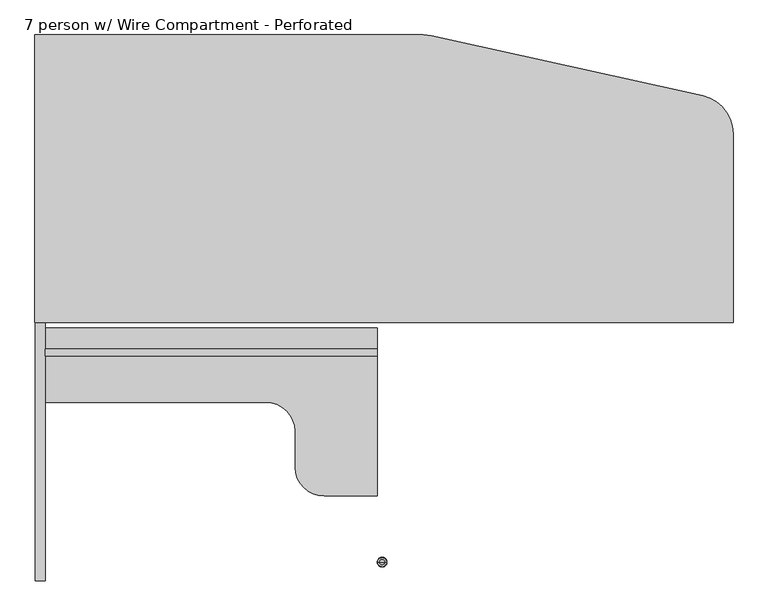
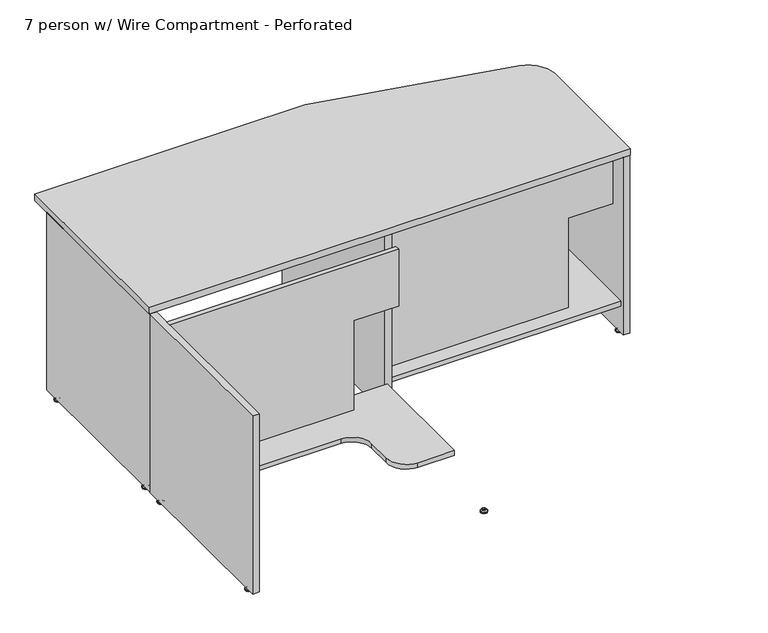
"""IFC4 building model written with IfcOpenShell, lengths in millimetres: furniture geometry, Nova Solutions - Collaboration Table - Boat_6-8 person : 7 person w/ Wire Compartment - Perforated."""

from ifc_helpers import new_model, si_unit, point, frame, frame_2d, origin, place, context, project, spatial, polyline, circle_curve, ellipse_curve, trimmed, segment, composite_curve, outline, extrude, source, transform, mapped, element, save
from ifc_brep_helpers import plane_surface, cylinder_surface, revolved_surface, advanced_brep


def furniture_7_person_w_wire_compartment_perforated_33649b7c(model_context):
    return source(origin(), model_context, "Body", "SolidModel", [
        advanced_brep(
        [(-906.7036506, 631.3859375, 11.1125), (-893.3483494, 631.3859375, 11.1125), (-900.026, 631.3859375, 11.1125), (-906.7036506, 631.3859375, 9.525), (-893.3483494, 631.3859375, 9.525), (-911.9115135, 631.3859375, 4.7748687), (-888.1404865, 631.3859375, 4.7748687), (-912.7726506, 631.3859375, 3.989419), (-887.2793494, 631.3859375, 3.989419), (-912.7726506, 631.3859375, 3.175), (-887.2793494, 631.3859375, 3.175), (-911.9219119, 631.3859375, 0.0), (-888.1300881, 631.3859375, 0.0), (-900.026, 631.3859375, 0.0)],
        [
            (0, 1, circle_curve(frame((-900.026, 631.3859375, 11.1125), z_axis=(0.0, 0.0, 1.0), x_axis=(1.0, 0.0, 0.0)), 6.6776506)),
            (1, 2),
            (2, 0),
            (1, 0, circle_curve(frame((-900.026, 631.3859375, 11.1125), z_axis=(0.0, 0.0, 1.0), x_axis=(1.0, 0.0, 0.0)), 6.6776506)),
            (3, 4, circle_curve(frame((-900.026, 631.3859375, 9.525), z_axis=(0.0, 0.0, 1.0), x_axis=(1.0, 0.0, 0.0)), 6.6776506)),
            (4, 1),
            (0, 3),
            (4, 3, circle_curve(frame((-900.026, 631.3859375, 9.525), z_axis=(0.0, 0.0, 1.0), x_axis=(1.0, 0.0, 0.0)), 6.6776506)),
            (5, 6, circle_curve(frame((-900.026, 631.3859375, 4.7748687), z_axis=(0.0, 0.0, 1.0), x_axis=(1.0, 0.0, 0.0)), 11.8855135)),
            (6, 4, circle_curve(frame((-887.0939373, 631.3859375, 11.1521822), z_axis=(0.0, 1.0, 0.0), x_axis=(-1.0, 0.0, 0.0)), 6.462615)),
            (3, 5, circle_curve(frame((-912.9580627, 631.3859375, 11.1521822), z_axis=(0.0, 1.0, 0.0), x_axis=(1.0, 0.0, 0.0)), 6.462615)),
            (6, 5, circle_curve(frame((-900.026, 631.3859375, 4.7748687), z_axis=(0.0, 0.0, 1.0), x_axis=(1.0, 0.0, 0.0)), 11.8855135)),
            (7, 8, circle_curve(frame((-900.026, 631.3859375, 3.989419), z_axis=(0.0, 0.0, 1.0), x_axis=(1.0, 0.0, 0.0)), 12.7466506)),
            (8, 6, circle_curve(frame((-888.3135368, 631.3859375, 3.7203591), z_axis=(0.0, -1.0, 0.0), x_axis=(-1.0, 0.0, 0.0)), 1.0686145)),
            (5, 7, circle_curve(frame((-911.7384632, 631.3859375, 3.7203591), z_axis=(0.0, -1.0, 0.0), x_axis=(1.0, 0.0, 0.0)), 1.0686145)),
            (8, 7, circle_curve(frame((-900.026, 631.3859375, 3.989419), z_axis=(0.0, 0.0, 1.0), x_axis=(1.0, 0.0, 0.0)), 12.7466506)),
            (9, 10, circle_curve(frame((-900.026, 631.3859375, 3.175), z_axis=(0.0, 0.0, 1.0), x_axis=(1.0, 0.0, 0.0)), 12.7466506)),
            (10, 8),
            (7, 9),
            (10, 9, circle_curve(frame((-900.026, 631.3859375, 3.175), z_axis=(0.0, 0.0, 1.0), x_axis=(1.0, 0.0, 0.0)), 12.7466506)),
            (11, 12, circle_curve(frame((-900.026, 631.3859375, 0.0), z_axis=(0.0, 0.0, 1.0), x_axis=(1.0, 0.0, 0.0)), 11.8959119)),
            (12, 10),
            (9, 11),
            (12, 11, circle_curve(frame((-900.026, 631.3859375, 0.0), z_axis=(0.0, 0.0, 1.0), x_axis=(1.0, 0.0, 0.0)), 11.8959119)),
            (13, 12),
            (11, 13),
        ],
        [
            plane_surface(frame((-900.026, 631.3859375, 11.1125), z_axis=(0.0, 0.0, 1.0), x_axis=(1.0, 0.0, 0.0))),
            cylinder_surface(frame((-900.026, 631.3859375, 43.2095994), z_axis=(0.0, 0.0, -1.0), x_axis=(1.0, 0.0, 0.0)), 6.6776506),
            revolved_surface(trimmed(ellipse_curve(frame((-887.0939373, 631.3859375, 11.1521822), z_axis=(0.0, -1.0, 0.0), x_axis=(-1.0, 0.0, 0.0)), 6.462615, 6.462615), [point((-893.3483494, 631.3859375, 9.525))], [point((-888.1404865, 631.3859375, 4.7748687))], True, "CARTESIAN"), (-900.026, 631.3859375, 43.2095994), (0.0, 0.0, -1.0)),
            revolved_surface(trimmed(ellipse_curve(frame((-888.3135368, 631.3859375, 3.7203591), z_axis=(0.0, 1.0, 0.0), x_axis=(-1.0, 0.0, 0.0)), 1.0686145, 1.0686145), [point((-888.1404865, 631.3859375, 4.7748687))], [point((-887.2793494, 631.3859375, 3.989419))], True, "CARTESIAN"), (-900.026, 631.3859375, 43.2095994), (0.0, 0.0, -1.0)),
            cylinder_surface(frame((-900.026, 631.3859375, 43.2095994), z_axis=(0.0, 0.0, -1.0), x_axis=(1.0, 0.0, 0.0)), 12.7466506),
            revolved_surface(polyline([(-887.2793494, 631.3859375, 3.175), (-888.1300881, 631.3859375, 0.0)]), (-900.026, 631.3859375, 43.2095994), (0.0, 0.0, -1.0)),
            plane_surface(frame((-900.026, 631.3859375, 0.0), z_axis=(0.0, 0.0, -1.0), x_axis=(1.0, 0.0, 0.0))),
        ],
        [
            (0, [[1, 2, 3]]),
            (0, [[4, -3, -2]]),
            (1, [[5, 6, -1, 7]]),
            (1, [[8, -7, -4, -6]]),
            (2, [[9, 10, -5, 11]]),
            (2, [[12, -11, -8, -10]]),
            (3, [[13, 14, -9, 15]]),
            (3, [[16, -15, -12, -14]]),
            (4, [[17, 18, -13, 19]]),
            (4, [[20, -19, -16, -18]]),
            (5, [[21, 22, -17, 23]]),
            (5, [[24, -23, -20, -22]]),
            (6, [[25, -21, 26]]),
            (6, [[-26, -24, -25]]),
        ],
    ),
        advanced_brep(
        [(-906.7036506, 50.4140625, 11.1125), (-893.3483494, 50.4140625, 11.1125), (-900.026, 50.4140625, 11.1125), (-906.7036506, 50.4140625, 9.525), (-893.3483494, 50.4140625, 9.525), (-911.9115135, 50.4140625, 4.7748687), (-888.1404865, 50.4140625, 4.7748687), (-912.7726506, 50.4140625, 3.989419), (-887.2793494, 50.4140625, 3.989419), (-912.7726506, 50.4140625, 3.175), (-887.2793494, 50.4140625, 3.175), (-911.9219119, 50.4140625, 0.0), (-888.1300881, 50.4140625, 0.0), (-900.026, 50.4140625, 0.0)],
        [
            (0, 1, circle_curve(frame((-900.026, 50.4140625, 11.1125), z_axis=(0.0, 0.0, 1.0), x_axis=(1.0, 0.0, 0.0)), 6.6776506)),
            (1, 2),
            (2, 0),
            (1, 0, circle_curve(frame((-900.026, 50.4140625, 11.1125), z_axis=(0.0, 0.0, 1.0), x_axis=(1.0, 0.0, 0.0)), 6.6776506)),
            (3, 4, circle_curve(frame((-900.026, 50.4140625, 9.525), z_axis=(0.0, 0.0, 1.0), x_axis=(1.0, 0.0, 0.0)), 6.6776506)),
            (4, 1),
            (0, 3),
            (4, 3, circle_curve(frame((-900.026, 50.4140625, 9.525), z_axis=(0.0, 0.0, 1.0), x_axis=(1.0, 0.0, 0.0)), 6.6776506)),
            (5, 6, circle_curve(frame((-900.026, 50.4140625, 4.7748687), z_axis=(0.0, 0.0, 1.0), x_axis=(1.0, 0.0, 0.0)), 11.8855135)),
            (6, 4, circle_curve(frame((-887.0939373, 50.4140625, 11.1521822), z_axis=(0.0, 1.0, 0.0), x_axis=(-1.0, 0.0, 0.0)), 6.462615)),
            (3, 5, circle_curve(frame((-912.9580627, 50.4140625, 11.1521822), z_axis=(0.0, 1.0, 0.0), x_axis=(1.0, 0.0, 0.0)), 6.462615)),
            (6, 5, circle_curve(frame((-900.026, 50.4140625, 4.7748687), z_axis=(0.0, 0.0, 1.0), x_axis=(1.0, 0.0, 0.0)), 11.8855135)),
            (7, 8, circle_curve(frame((-900.026, 50.4140625, 3.989419), z_axis=(0.0, 0.0, 1.0), x_axis=(1.0, 0.0, 0.0)), 12.7466506)),
            (8, 6, circle_curve(frame((-888.3135368, 50.4140625, 3.7203591), z_axis=(0.0, -1.0, 0.0), x_axis=(-1.0, 0.0, 0.0)), 1.0686145)),
            (5, 7, circle_curve(frame((-911.7384632, 50.4140625, 3.7203591), z_axis=(0.0, -1.0, 0.0), x_axis=(1.0, 0.0, 0.0)), 1.0686145)),
            (8, 7, circle_curve(frame((-900.026, 50.4140625, 3.989419), z_axis=(0.0, 0.0, 1.0), x_axis=(1.0, 0.0, 0.0)), 12.7466506)),
            (9, 10, circle_curve(frame((-900.026, 50.4140625, 3.175), z_axis=(0.0, 0.0, 1.0), x_axis=(1.0, 0.0, 0.0)), 12.7466506)),
            (10, 8),
            (7, 9),
            (10, 9, circle_curve(frame((-900.026, 50.4140625, 3.175), z_axis=(0.0, 0.0, 1.0), x_axis=(1.0, 0.0, 0.0)), 12.7466506)),
            (11, 12, circle_curve(frame((-900.026, 50.4140625, 0.0), z_axis=(0.0, 0.0, 1.0), x_axis=(1.0, 0.0, 0.0)), 11.8959119)),
            (12, 10),
            (9, 11),
            (12, 11, circle_curve(frame((-900.026, 50.4140625, 0.0), z_axis=(0.0, 0.0, 1.0), x_axis=(1.0, 0.0, 0.0)), 11.8959119)),
            (13, 12),
            (11, 13),
        ],
        [
            plane_surface(frame((-900.026, 50.4140625, 11.1125), z_axis=(0.0, 0.0, 1.0), x_axis=(1.0, 0.0, 0.0))),
            cylinder_surface(frame((-900.026, 50.4140625, 43.2095994), z_axis=(0.0, 0.0, -1.0), x_axis=(1.0, 0.0, 0.0)), 6.6776506),
            revolved_surface(trimmed(ellipse_curve(frame((-887.0939373, 50.4140625, 11.1521822), z_axis=(0.0, -1.0, 0.0), x_axis=(-1.0, 0.0, 0.0)), 6.462615, 6.462615), [point((-893.3483494, 50.4140625, 9.525))], [point((-888.1404865, 50.4140625, 4.7748687))], True, "CARTESIAN"), (-900.026, 50.4140625, 43.2095994), (0.0, 0.0, -1.0)),
            revolved_surface(trimmed(ellipse_curve(frame((-888.3135368, 50.4140625, 3.7203591), z_axis=(0.0, 1.0, 0.0), x_axis=(-1.0, 0.0, 0.0)), 1.0686145, 1.0686145), [point((-888.1404865, 50.4140625, 4.7748687))], [point((-887.2793494, 50.4140625, 3.989419))], True, "CARTESIAN"), (-900.026, 50.4140625, 43.2095994), (0.0, 0.0, -1.0)),
            cylinder_surface(frame((-900.026, 50.4140625, 43.2095994), z_axis=(0.0, 0.0, -1.0), x_axis=(1.0, 0.0, 0.0)), 12.7466506),
            revolved_surface(polyline([(-887.2793494, 50.4140625, 3.175), (-888.1300881, 50.4140625, 0.0)]), (-900.026, 50.4140625, 43.2095994), (0.0, 0.0, -1.0)),
            plane_surface(frame((-900.026, 50.4140625, 0.0), z_axis=(0.0, 0.0, -1.0), x_axis=(1.0, 0.0, 0.0))),
        ],
        [
            (0, [[1, 2, 3]]),
            (0, [[4, -3, -2]]),
            (1, [[5, 6, -1, 7]]),
            (1, [[8, -7, -4, -6]]),
            (2, [[9, 10, -5, 11]]),
            (2, [[12, -11, -8, -10]]),
            (3, [[13, 14, -9, 15]]),
            (3, [[16, -15, -12, -14]]),
            (4, [[17, 18, -13, 19]]),
            (4, [[20, -19, -16, -18]]),
            (5, [[21, 22, -17, 23]]),
            (5, [[24, -23, -20, -22]]),
            (6, [[25, -21, 26]]),
            (6, [[-26, -24, -25]]),
        ],
    ),
        extrude(outline(polyline([(-912.876, 1.4), (-912.876, 680.4), (-887.176, 680.4), (-887.176, 1.4), (-912.876, 1.4)])), frame((0.0, 0.0, 15.6), z_axis=(0.0, 0.0, 1.0), x_axis=(1.0, 0.0, 0.0)), (0.0, 0.0, 1.0), 720.7),
        advanced_brep(
        [(6.6776506, 631.3859375, 11.1125), (0.0, 631.3859375, 11.1125), (-6.6776506, 631.3859375, 11.1125), (6.6776506, 631.3859375, 9.525), (-6.6776506, 631.3859375, 9.525), (11.8855135, 631.3859375, 4.7748687), (-11.8855135, 631.3859375, 4.7748687), (12.7466506, 631.3859375, 3.989419), (-12.7466506, 631.3859375, 3.989419), (12.7466506, 631.3859375, 3.175), (-12.7466506, 631.3859375, 3.175), (11.8959119, 631.3859375, 0.0), (-11.8959119, 631.3859375, 0.0), (0.0, 631.3859375, 0.0)],
        [
            (0, 1),
            (1, 2),
            (2, 0, circle_curve(frame((0.0, 631.3859375, 11.1125), z_axis=(0.0, 0.0, 1.0), x_axis=(-1.0, 0.0, 0.0)), 6.6776506)),
            (0, 2, circle_curve(frame((0.0, 631.3859375, 11.1125), z_axis=(0.0, 0.0, 1.0), x_axis=(-1.0, 0.0, 0.0)), 6.6776506)),
            (3, 0),
            (2, 4),
            (4, 3, circle_curve(frame((0.0, 631.3859375, 9.525), z_axis=(0.0, 0.0, 1.0), x_axis=(-1.0, 0.0, 0.0)), 6.6776506)),
            (3, 4, circle_curve(frame((0.0, 631.3859375, 9.525), z_axis=(0.0, 0.0, 1.0), x_axis=(-1.0, 0.0, 0.0)), 6.6776506)),
            (5, 3, circle_curve(frame((12.9320627, 631.3859375, 11.1521822), z_axis=(0.0, 1.0, 0.0), x_axis=(-1.0, 0.0, 0.0)), 6.462615)),
            (4, 6, circle_curve(frame((-12.9320627, 631.3859375, 11.1521822), z_axis=(0.0, 1.0, 0.0), x_axis=(1.0, 0.0, 0.0)), 6.462615)),
            (6, 5, circle_curve(frame((0.0, 631.3859375, 4.7748687), z_axis=(0.0, 0.0, 1.0), x_axis=(-1.0, 0.0, 0.0)), 11.8855135)),
            (5, 6, circle_curve(frame((0.0, 631.3859375, 4.7748687), z_axis=(0.0, 0.0, 1.0), x_axis=(-1.0, 0.0, 0.0)), 11.8855135)),
            (7, 5, circle_curve(frame((11.7124632, 631.3859375, 3.7203591), z_axis=(0.0, -1.0, 0.0), x_axis=(-1.0, 0.0, 0.0)), 1.0686145)),
            (6, 8, circle_curve(frame((-11.7124632, 631.3859375, 3.7203591), z_axis=(0.0, -1.0, 0.0), x_axis=(1.0, 0.0, 0.0)), 1.0686145)),
            (8, 7, circle_curve(frame((0.0, 631.3859375, 3.989419), z_axis=(0.0, 0.0, 1.0), x_axis=(-1.0, 0.0, 0.0)), 12.7466506)),
            (7, 8, circle_curve(frame((0.0, 631.3859375, 3.989419), z_axis=(0.0, 0.0, 1.0), x_axis=(-1.0, 0.0, 0.0)), 12.7466506)),
            (9, 7),
            (8, 10),
            (10, 9, circle_curve(frame((0.0, 631.3859375, 3.175), z_axis=(0.0, 0.0, 1.0), x_axis=(-1.0, 0.0, 0.0)), 12.7466506)),
            (9, 10, circle_curve(frame((0.0, 631.3859375, 3.175), z_axis=(0.0, 0.0, 1.0), x_axis=(-1.0, 0.0, 0.0)), 12.7466506)),
            (11, 9),
            (10, 12),
            (12, 11, circle_curve(frame((0.0, 631.3859375, 0.0), z_axis=(0.0, 0.0, 1.0), x_axis=(-1.0, 0.0, 0.0)), 11.8959119)),
            (11, 12, circle_curve(frame((0.0, 631.3859375, 0.0), z_axis=(0.0, 0.0, 1.0), x_axis=(-1.0, 0.0, 0.0)), 11.8959119)),
            (13, 11),
            (12, 13),
        ],
        [
            plane_surface(frame((0.0, 631.3859375, 11.1125), z_axis=(0.0, 0.0, 1.0), x_axis=(-1.0, 0.0, 0.0))),
            cylinder_surface(frame((0.0, 631.3859375, 43.2095994), z_axis=(0.0, 0.0, -1.0), x_axis=(-1.0, 0.0, 0.0)), 6.6776506),
            revolved_surface(trimmed(ellipse_curve(frame((-12.9320627, 631.3859375, 11.1521822), z_axis=(0.0, 1.0, 0.0), x_axis=(1.0, 0.0, 0.0)), 6.462615, 6.462615), [point((-6.6776506, 631.3859375, 9.525))], [point((-11.8855135, 631.3859375, 4.7748687))], True, "CARTESIAN"), (0.0, 631.3859375, 43.2095994), (0.0, 0.0, -1.0)),
            revolved_surface(trimmed(ellipse_curve(frame((-11.7124632, 631.3859375, 3.7203591), z_axis=(0.0, -1.0, 0.0), x_axis=(1.0, 0.0, 0.0)), 1.0686145, 1.0686145), [point((-11.8855135, 631.3859375, 4.7748687))], [point((-12.7466506, 631.3859375, 3.989419))], True, "CARTESIAN"), (0.0, 631.3859375, 43.2095994), (0.0, 0.0, -1.0)),
            cylinder_surface(frame((0.0, 631.3859375, 43.2095994), z_axis=(0.0, 0.0, -1.0), x_axis=(-1.0, 0.0, 0.0)), 12.7466506),
            revolved_surface(polyline([(-12.7466506, 631.3859375, 3.175), (-11.8959119, 631.3859375, 0.0)]), (0.0, 631.3859375, 43.2095994), (0.0, 0.0, -1.0)),
            plane_surface(frame((0.0, 631.3859375, 0.0), z_axis=(0.0, 0.0, -1.0), x_axis=(-1.0, 0.0, 0.0))),
        ],
        [
            (0, [[1, 2, 3]]),
            (0, [[-2, -1, 4]]),
            (1, [[5, -3, 6, 7]]),
            (1, [[-6, -4, -5, 8]]),
            (2, [[9, -7, 10, 11]]),
            (2, [[-10, -8, -9, 12]]),
            (3, [[13, -11, 14, 15]]),
            (3, [[-14, -12, -13, 16]]),
            (4, [[17, -15, 18, 19]]),
            (4, [[-18, -16, -17, 20]]),
            (5, [[21, -19, 22, 23]]),
            (5, [[-22, -20, -21, 24]]),
            (6, [[25, -23, 26]]),
            (6, [[-26, -24, -25]]),
        ],
    ),
        advanced_brep(
        [(6.6776506, 50.4140625, 11.1125), (0.0, 50.4140625, 11.1125), (-6.6776506, 50.4140625, 11.1125), (6.6776506, 50.4140625, 9.525), (-6.6776506, 50.4140625, 9.525), (11.8855135, 50.4140625, 4.7748687), (-11.8855135, 50.4140625, 4.7748687), (12.7466506, 50.4140625, 3.989419), (-12.7466506, 50.4140625, 3.989419), (12.7466506, 50.4140625, 3.175), (-12.7466506, 50.4140625, 3.175), (11.8959119, 50.4140625, 0.0), (-11.8959119, 50.4140625, 0.0), (0.0, 50.4140625, 0.0)],
        [
            (0, 1),
            (1, 2),
            (2, 0, circle_curve(frame((0.0, 50.4140625, 11.1125), z_axis=(0.0, 0.0, 1.0), x_axis=(-1.0, 0.0, 0.0)), 6.6776506)),
            (0, 2, circle_curve(frame((0.0, 50.4140625, 11.1125), z_axis=(0.0, 0.0, 1.0), x_axis=(-1.0, 0.0, 0.0)), 6.6776506)),
            (3, 0),
            (2, 4),
            (4, 3, circle_curve(frame((0.0, 50.4140625, 9.525), z_axis=(0.0, 0.0, 1.0), x_axis=(-1.0, 0.0, 0.0)), 6.6776506)),
            (3, 4, circle_curve(frame((0.0, 50.4140625, 9.525), z_axis=(0.0, 0.0, 1.0), x_axis=(-1.0, 0.0, 0.0)), 6.6776506)),
            (5, 3, circle_curve(frame((12.9320627, 50.4140625, 11.1521822), z_axis=(0.0, 1.0, 0.0), x_axis=(-1.0, 0.0, 0.0)), 6.462615)),
            (4, 6, circle_curve(frame((-12.9320627, 50.4140625, 11.1521822), z_axis=(0.0, 1.0, 0.0), x_axis=(1.0, 0.0, 0.0)), 6.462615)),
            (6, 5, circle_curve(frame((0.0, 50.4140625, 4.7748687), z_axis=(0.0, 0.0, 1.0), x_axis=(-1.0, 0.0, 0.0)), 11.8855135)),
            (5, 6, circle_curve(frame((0.0, 50.4140625, 4.7748687), z_axis=(0.0, 0.0, 1.0), x_axis=(-1.0, 0.0, 0.0)), 11.8855135)),
            (7, 5, circle_curve(frame((11.7124632, 50.4140625, 3.7203591), z_axis=(0.0, -1.0, 0.0), x_axis=(-1.0, 0.0, 0.0)), 1.0686145)),
            (6, 8, circle_curve(frame((-11.7124632, 50.4140625, 3.7203591), z_axis=(0.0, -1.0, 0.0), x_axis=(1.0, 0.0, 0.0)), 1.0686145)),
            (8, 7, circle_curve(frame((0.0, 50.4140625, 3.989419), z_axis=(0.0, 0.0, 1.0), x_axis=(-1.0, 0.0, 0.0)), 12.7466506)),
            (7, 8, circle_curve(frame((0.0, 50.4140625, 3.989419), z_axis=(0.0, 0.0, 1.0), x_axis=(-1.0, 0.0, 0.0)), 12.7466506)),
            (9, 7),
            (8, 10),
            (10, 9, circle_curve(frame((0.0, 50.4140625, 3.175), z_axis=(0.0, 0.0, 1.0), x_axis=(-1.0, 0.0, 0.0)), 12.7466506)),
            (9, 10, circle_curve(frame((0.0, 50.4140625, 3.175), z_axis=(0.0, 0.0, 1.0), x_axis=(-1.0, 0.0, 0.0)), 12.7466506)),
            (11, 9),
            (10, 12),
            (12, 11, circle_curve(frame((0.0, 50.4140625, 0.0), z_axis=(0.0, 0.0, 1.0), x_axis=(-1.0, 0.0, 0.0)), 11.8959119)),
            (11, 12, circle_curve(frame((0.0, 50.4140625, 0.0), z_axis=(0.0, 0.0, 1.0), x_axis=(-1.0, 0.0, 0.0)), 11.8959119)),
            (13, 11),
            (12, 13),
        ],
        [
            plane_surface(frame((0.0, 50.4140625, 11.1125), z_axis=(0.0, 0.0, 1.0), x_axis=(-1.0, 0.0, 0.0))),
            cylinder_surface(frame((0.0, 50.4140625, 43.2095994), z_axis=(0.0, 0.0, -1.0), x_axis=(-1.0, 0.0, 0.0)), 6.6776506),
            revolved_surface(trimmed(ellipse_curve(frame((-12.9320627, 50.4140625, 11.1521822), z_axis=(0.0, 1.0, 0.0), x_axis=(1.0, 0.0, 0.0)), 6.462615, 6.462615), [point((-6.6776506, 50.4140625, 9.525))], [point((-11.8855135, 50.4140625, 4.7748687))], True, "CARTESIAN"), (0.0, 50.4140625, 43.2095994), (0.0, 0.0, -1.0)),
            revolved_surface(trimmed(ellipse_curve(frame((-11.7124632, 50.4140625, 3.7203591), z_axis=(0.0, -1.0, 0.0), x_axis=(1.0, 0.0, 0.0)), 1.0686145, 1.0686145), [point((-11.8855135, 50.4140625, 4.7748687))], [point((-12.7466506, 50.4140625, 3.989419))], True, "CARTESIAN"), (0.0, 50.4140625, 43.2095994), (0.0, 0.0, -1.0)),
            cylinder_surface(frame((0.0, 50.4140625, 43.2095994), z_axis=(0.0, 0.0, -1.0), x_axis=(-1.0, 0.0, 0.0)), 12.7466506),
            revolved_surface(polyline([(-12.7466506, 50.4140625, 3.175), (-11.8959119, 50.4140625, 0.0)]), (0.0, 50.4140625, 43.2095994), (0.0, 0.0, -1.0)),
            plane_surface(frame((0.0, 50.4140625, 0.0), z_axis=(0.0, 0.0, -1.0), x_axis=(-1.0, 0.0, 0.0))),
        ],
        [
            (0, [[1, 2, 3]]),
            (0, [[-2, -1, 4]]),
            (1, [[5, -3, 6, 7]]),
            (1, [[-6, -4, -5, 8]]),
            (2, [[9, -7, 10, 11]]),
            (2, [[-10, -8, -9, 12]]),
            (3, [[13, -11, 14, 15]]),
            (3, [[-14, -12, -13, 16]]),
            (4, [[17, -15, 18, 19]]),
            (4, [[-18, -16, -17, 20]]),
            (5, [[21, -19, 22, 23]]),
            (5, [[-22, -20, -21, 24]]),
            (6, [[25, -23, 26]]),
            (6, [[-26, -24, -25]]),
        ],
    ),
        extrude(outline(polyline([(12.85, 1.4), (-12.85, 1.4), (-12.85, 680.4), (12.85, 680.4), (12.85, 1.4)])), frame((0.0, 0.0, 15.6), z_axis=(0.0, 0.0, 1.0), x_axis=(1.0, 0.0, 0.0)), (0.0, 0.0, 1.0), 720.7),
        extrude(outline(polyline([(736.3, 12.85), (145.5, 12.85), (145.5, 726.15), (507.4, 726.15), (507.4, 897.15), (736.3, 897.15), (736.3, 12.85)])), frame((0.0, 69.4, 0.0), z_axis=(0.0, 1.0, 0.0), x_axis=(0.0, 0.0, 1.0)), (0.0, 0.0, 1.0), 19.2),
        extrude(outline(composite_curve([segment(polyline([(897.15, 457.2625), (897.15, 14.1), (12.85, 14.1), (12.85, 210.4), (604.95, 210.4)]), True, "CONTINUOUS"), segment(trimmed(circle_curve(frame_2d((604.95, 286.6)), 76.2), [point((604.95, 210.4))], [point((681.15, 286.6))], True, "CARTESIAN"), True, "CONTINUOUS"), segment(polyline([(681.15, 286.6), (681.15, 381.0625)]), True, "CONTINUOUS"), segment(trimmed(circle_curve(frame_2d((757.35, 381.0625)), 76.2), [point((681.15, 381.0625))], [point((757.35, 457.2625))], False, "CARTESIAN"), True, "CONTINUOUS"), segment(polyline([(757.35, 457.2625), (897.15, 457.2625)]), True, "CONTINUOUS")], self_intersect=False)), frame((0.0, 0.0, 126.3), z_axis=(0.0, 0.0, 1.0), x_axis=(1.0, 0.0, 0.0)), (0.0, 0.0, 1.0), 19.2),
        advanced_brep(
        [(916.6776506, 448.9859375, 11.1125), (910.0, 448.9859375, 11.1125), (903.3223494, 448.9859375, 11.1125), (916.6776506, 448.9859375, 9.525), (903.3223494, 448.9859375, 9.525), (921.8855135, 448.9859375, 4.7748687), (898.1144865, 448.9859375, 4.7748687), (922.7466506, 448.9859375, 3.989419), (897.2533494, 448.9859375, 3.989419), (922.7466506, 448.9859375, 3.175), (897.2533494, 448.9859375, 3.175), (921.8959119, 448.9859375, 0.0), (898.1040881, 448.9859375, 0.0), (910.0, 448.9859375, 0.0)],
        [
            (0, 1),
            (1, 2),
            (2, 0, circle_curve(frame((910.0, 448.9859375, 11.1125), z_axis=(0.0, 0.0, 1.0), x_axis=(-1.0, 0.0, 0.0)), 6.6776506)),
            (0, 2, circle_curve(frame((910.0, 448.9859375, 11.1125), z_axis=(0.0, 0.0, 1.0), x_axis=(-1.0, 0.0, 0.0)), 6.6776506)),
            (3, 0),
            (2, 4),
            (4, 3, circle_curve(frame((910.0, 448.9859375, 9.525), z_axis=(0.0, 0.0, 1.0), x_axis=(-1.0, 0.0, 0.0)), 6.6776506)),
            (3, 4, circle_curve(frame((910.0, 448.9859375, 9.525), z_axis=(0.0, 0.0, 1.0), x_axis=(-1.0, 0.0, 0.0)), 6.6776506)),
            (5, 3, circle_curve(frame((922.9320627, 448.9859375, 11.1521822), z_axis=(0.0, 1.0, 0.0), x_axis=(-1.0, 0.0, 0.0)), 6.462615)),
            (4, 6, circle_curve(frame((897.0679373, 448.9859375, 11.1521822), z_axis=(0.0, 1.0, 0.0), x_axis=(1.0, 0.0, 0.0)), 6.462615)),
            (6, 5, circle_curve(frame((910.0, 448.9859375, 4.7748687), z_axis=(0.0, 0.0, 1.0), x_axis=(-1.0, 0.0, 0.0)), 11.8855135)),
            (5, 6, circle_curve(frame((910.0, 448.9859375, 4.7748687), z_axis=(0.0, 0.0, 1.0), x_axis=(-1.0, 0.0, 0.0)), 11.8855135)),
            (7, 5, circle_curve(frame((921.7124632, 448.9859375, 3.7203591), z_axis=(0.0, -1.0, 0.0), x_axis=(-1.0, 0.0, 0.0)), 1.0686145)),
            (6, 8, circle_curve(frame((898.2875368, 448.9859375, 3.7203591), z_axis=(0.0, -1.0, 0.0), x_axis=(1.0, 0.0, 0.0)), 1.0686145)),
            (8, 7, circle_curve(frame((910.0, 448.9859375, 3.989419), z_axis=(0.0, 0.0, 1.0), x_axis=(-1.0, 0.0, 0.0)), 12.7466506)),
            (7, 8, circle_curve(frame((910.0, 448.9859375, 3.989419), z_axis=(0.0, 0.0, 1.0), x_axis=(-1.0, 0.0, 0.0)), 12.7466506)),
            (9, 7),
            (8, 10),
            (10, 9, circle_curve(frame((910.0, 448.9859375, 3.175), z_axis=(0.0, 0.0, 1.0), x_axis=(-1.0, 0.0, 0.0)), 12.7466506)),
            (9, 10, circle_curve(frame((910.0, 448.9859375, 3.175), z_axis=(0.0, 0.0, 1.0), x_axis=(-1.0, 0.0, 0.0)), 12.7466506)),
            (11, 9),
            (10, 12),
            (12, 11, circle_curve(frame((910.0, 448.9859375, 0.0), z_axis=(0.0, 0.0, 1.0), x_axis=(-1.0, 0.0, 0.0)), 11.8959119)),
            (11, 12, circle_curve(frame((910.0, 448.9859375, 0.0), z_axis=(0.0, 0.0, 1.0), x_axis=(-1.0, 0.0, 0.0)), 11.8959119)),
            (13, 11),
            (12, 13),
        ],
        [
            plane_surface(frame((910.0, 448.9859375, 11.1125), z_axis=(0.0, 0.0, 1.0), x_axis=(-1.0, 0.0, 0.0))),
            cylinder_surface(frame((910.0, 448.9859375, 43.2095994), z_axis=(0.0, 0.0, -1.0), x_axis=(-1.0, 0.0, 0.0)), 6.6776506),
            revolved_surface(trimmed(ellipse_curve(frame((897.0679373, 448.9859375, 11.1521822), z_axis=(0.0, 1.0, 0.0), x_axis=(1.0, 0.0, 0.0)), 6.462615, 6.462615), [point((903.3223494, 448.9859375, 9.525))], [point((898.1144865, 448.9859375, 4.7748687))], True, "CARTESIAN"), (910.0, 448.9859375, 43.2095994), (0.0, 0.0, -1.0)),
            revolved_surface(trimmed(ellipse_curve(frame((898.2875368, 448.9859375, 3.7203591), z_axis=(0.0, -1.0, 0.0), x_axis=(1.0, 0.0, 0.0)), 1.0686145, 1.0686145), [point((898.1144865, 448.9859375, 4.7748687))], [point((897.2533494, 448.9859375, 3.989419))], True, "CARTESIAN"), (910.0, 448.9859375, 43.2095994), (0.0, 0.0, -1.0)),
            cylinder_surface(frame((910.0, 448.9859375, 43.2095994), z_axis=(0.0, 0.0, -1.0), x_axis=(-1.0, 0.0, 0.0)), 12.7466506),
            revolved_surface(polyline([(897.2533494, 448.9859375, 3.175), (898.1040881, 448.9859375, 0.0)]), (910.0, 448.9859375, 43.2095994), (0.0, 0.0, -1.0)),
            plane_surface(frame((910.0, 448.9859375, 0.0), z_axis=(0.0, 0.0, -1.0), x_axis=(-1.0, 0.0, 0.0))),
        ],
        [
            (0, [[1, 2, 3]]),
            (0, [[-2, -1, 4]]),
            (1, [[5, -3, 6, 7]]),
            (1, [[-6, -4, -5, 8]]),
            (2, [[9, -7, 10, 11]]),
            (2, [[-10, -8, -9, 12]]),
            (3, [[13, -11, 14, 15]]),
            (3, [[-14, -12, -13, 16]]),
            (4, [[17, -15, 18, 19]]),
            (4, [[-18, -16, -17, 20]]),
            (5, [[21, -19, 22, 23]]),
            (5, [[-22, -20, -21, 24]]),
            (6, [[25, -23, 26]]),
            (6, [[-26, -24, -25]]),
        ],
    ),
        advanced_brep(
        [(916.6776506, 50.4140625, 11.1125), (910.0, 50.4140625, 11.1125), (903.3223494, 50.4140625, 11.1125), (916.6776506, 50.4140625, 9.525), (903.3223494, 50.4140625, 9.525), (921.8855135, 50.4140625, 4.7748687), (898.1144865, 50.4140625, 4.7748687), (922.7466506, 50.4140625, 3.989419), (897.2533494, 50.4140625, 3.989419), (922.7466506, 50.4140625, 3.175), (897.2533494, 50.4140625, 3.175), (921.8959119, 50.4140625, 0.0), (898.1040881, 50.4140625, 0.0), (910.0, 50.4140625, 0.0)],
        [
            (0, 1),
            (1, 2),
            (2, 0, circle_curve(frame((910.0, 50.4140625, 11.1125), z_axis=(0.0, 0.0, 1.0), x_axis=(-1.0, 0.0, 0.0)), 6.6776506)),
            (0, 2, circle_curve(frame((910.0, 50.4140625, 11.1125), z_axis=(0.0, 0.0, 1.0), x_axis=(-1.0, 0.0, 0.0)), 6.6776506)),
            (3, 0),
            (2, 4),
            (4, 3, circle_curve(frame((910.0, 50.4140625, 9.525), z_axis=(0.0, 0.0, 1.0), x_axis=(-1.0, 0.0, 0.0)), 6.6776506)),
            (3, 4, circle_curve(frame((910.0, 50.4140625, 9.525), z_axis=(0.0, 0.0, 1.0), x_axis=(-1.0, 0.0, 0.0)), 6.6776506)),
            (5, 3, circle_curve(frame((922.9320627, 50.4140625, 11.1521822), z_axis=(0.0, 1.0, 0.0), x_axis=(-1.0, 0.0, 0.0)), 6.462615)),
            (4, 6, circle_curve(frame((897.0679373, 50.4140625, 11.1521822), z_axis=(0.0, 1.0, 0.0), x_axis=(1.0, 0.0, 0.0)), 6.462615)),
            (6, 5, circle_curve(frame((910.0, 50.4140625, 4.7748687), z_axis=(0.0, 0.0, 1.0), x_axis=(-1.0, 0.0, 0.0)), 11.8855135)),
            (5, 6, circle_curve(frame((910.0, 50.4140625, 4.7748687), z_axis=(0.0, 0.0, 1.0), x_axis=(-1.0, 0.0, 0.0)), 11.8855135)),
            (7, 5, circle_curve(frame((921.7124632, 50.4140625, 3.7203591), z_axis=(0.0, -1.0, 0.0), x_axis=(-1.0, 0.0, 0.0)), 1.0686145)),
            (6, 8, circle_curve(frame((898.2875368, 50.4140625, 3.7203591), z_axis=(0.0, -1.0, 0.0), x_axis=(1.0, 0.0, 0.0)), 1.0686145)),
            (8, 7, circle_curve(frame((910.0, 50.4140625, 3.989419), z_axis=(0.0, 0.0, 1.0), x_axis=(-1.0, 0.0, 0.0)), 12.7466506)),
            (7, 8, circle_curve(frame((910.0, 50.4140625, 3.989419), z_axis=(0.0, 0.0, 1.0), x_axis=(-1.0, 0.0, 0.0)), 12.7466506)),
            (9, 7),
            (8, 10),
            (10, 9, circle_curve(frame((910.0, 50.4140625, 3.175), z_axis=(0.0, 0.0, 1.0), x_axis=(-1.0, 0.0, 0.0)), 12.7466506)),
            (9, 10, circle_curve(frame((910.0, 50.4140625, 3.175), z_axis=(0.0, 0.0, 1.0), x_axis=(-1.0, 0.0, 0.0)), 12.7466506)),
            (11, 9),
            (10, 12),
            (12, 11, circle_curve(frame((910.0, 50.4140625, 0.0), z_axis=(0.0, 0.0, 1.0), x_axis=(-1.0, 0.0, 0.0)), 11.8959119)),
            (11, 12, circle_curve(frame((910.0, 50.4140625, 0.0), z_axis=(0.0, 0.0, 1.0), x_axis=(-1.0, 0.0, 0.0)), 11.8959119)),
            (13, 11),
            (12, 13),
        ],
        [
            plane_surface(frame((910.0, 50.4140625, 11.1125), z_axis=(0.0, 0.0, 1.0), x_axis=(-1.0, 0.0, 0.0))),
            cylinder_surface(frame((910.0, 50.4140625, 43.2095994), z_axis=(0.0, 0.0, -1.0), x_axis=(-1.0, 0.0, 0.0)), 6.6776506),
            revolved_surface(trimmed(ellipse_curve(frame((897.0679373, 50.4140625, 11.1521822), z_axis=(0.0, 1.0, 0.0), x_axis=(1.0, 0.0, 0.0)), 6.462615, 6.462615), [point((903.3223494, 50.4140625, 9.525))], [point((898.1144865, 50.4140625, 4.7748687))], True, "CARTESIAN"), (910.0, 50.4140625, 43.2095994), (0.0, 0.0, -1.0)),
            revolved_surface(trimmed(ellipse_curve(frame((898.2875368, 50.4140625, 3.7203591), z_axis=(0.0, -1.0, 0.0), x_axis=(1.0, 0.0, 0.0)), 1.0686145, 1.0686145), [point((898.1144865, 50.4140625, 4.7748687))], [point((897.2533494, 50.4140625, 3.989419))], True, "CARTESIAN"), (910.0, 50.4140625, 43.2095994), (0.0, 0.0, -1.0)),
            cylinder_surface(frame((910.0, 50.4140625, 43.2095994), z_axis=(0.0, 0.0, -1.0), x_axis=(-1.0, 0.0, 0.0)), 12.7466506),
            revolved_surface(polyline([(897.2533494, 50.4140625, 3.175), (898.1040881, 50.4140625, 0.0)]), (910.0, 50.4140625, 43.2095994), (0.0, 0.0, -1.0)),
            plane_surface(frame((910.0, 50.4140625, 0.0), z_axis=(0.0, 0.0, -1.0), x_axis=(-1.0, 0.0, 0.0))),
        ],
        [
            (0, [[1, 2, 3]]),
            (0, [[-2, -1, 4]]),
            (1, [[5, -3, 6, 7]]),
            (1, [[-6, -4, -5, 8]]),
            (2, [[9, -7, 10, 11]]),
            (2, [[-10, -8, -9, 12]]),
            (3, [[13, -11, 14, 15]]),
            (3, [[-14, -12, -13, 16]]),
            (4, [[17, -15, 18, 19]]),
            (4, [[-18, -16, -17, 20]]),
            (5, [[21, -19, 22, 23]]),
            (5, [[-22, -20, -21, 24]]),
            (6, [[25, -23, 26]]),
            (6, [[-26, -24, -25]]),
        ],
    ),
        extrude(outline(polyline([(922.85, 1.4), (897.15, 1.4), (897.15, 498.0), (922.85, 498.0), (922.85, 1.4)])), frame((0.0, 0.0, 15.6), z_axis=(0.0, 0.0, 1.0), x_axis=(1.0, 0.0, 0.0)), (0.0, 0.0, 1.0), 720.7),
        extrude(outline(composite_curve([segment(trimmed(circle_curve(frame_2d((108.0350272, 656.4)), 101.6), [point((108.0350272, 758.0))], [point((130.025292, 755.5916743))], False, "CARTESIAN"), True, "CONTINUOUS"), segment(polyline([(130.025292, 755.5916743), (844.6402648, 597.165349)]), True, "CONTINUOUS"), segment(trimmed(circle_curve(frame_2d((822.65, 497.9736747)), 101.6), [point((844.6402648, 597.165349))], [point((924.25, 497.9736747))], False, "CARTESIAN"), True, "CONTINUOUS"), segment(polyline([(924.25, 497.9736747), (924.25, 0.0), (-914.276, 0.0), (-914.276, 758.0), (108.0350272, 758.0)]), True, "CONTINUOUS")], self_intersect=False)), frame((0.0, 0.0, 736.3), z_axis=(0.0, 0.0, 1.0), x_axis=(1.0, 0.0, 0.0)), (0.0, 0.0, 1.0), 25.7),
        extrude(outline(polyline([(736.3, -887.176), (145.5, -887.176), (145.5, -183.85), (507.4, -183.85), (507.4, -12.85), (736.3, -12.85), (736.3, -887.176)])), frame((0.0, -88.6, 0.0), z_axis=(0.0, 1.0, 0.0), x_axis=(0.0, 0.0, 1.0)), (0.0, 0.0, 1.0), 19.2),
        extrude(outline(composite_curve([segment(polyline([(-887.176, -14.1), (-12.85, -14.1), (-12.85, -457.2625), (-152.65, -457.2625)]), True, "CONTINUOUS"), segment(trimmed(circle_curve(frame_2d((-152.65, -381.0625)), 76.2), [point((-152.65, -457.2625))], [point((-228.85, -381.0625))], False, "CARTESIAN"), True, "CONTINUOUS"), segment(polyline([(-228.85, -381.0625), (-228.85, -286.6)]), True, "CONTINUOUS"), segment(trimmed(circle_curve(frame_2d((-305.05, -286.6)), 76.2), [point((-228.85, -286.6))], [point((-305.05, -210.4))], True, "CARTESIAN"), True, "CONTINUOUS"), segment(polyline([(-305.05, -210.4), (-887.176, -210.4), (-887.176, -14.1)]), True, "CONTINUOUS")], self_intersect=False)), frame((0.0, 0.0, 126.3), z_axis=(0.0, 0.0, 1.0), x_axis=(1.0, 0.0, 0.0)), (0.0, 0.0, 1.0), 19.2),
        advanced_brep(
        [(-906.7036506, -631.3859375, 11.1125), (-900.026, -631.3859375, 11.1125), (-893.3483494, -631.3859375, 11.1125), (-906.7036506, -631.3859375, 9.525), (-893.3483494, -631.3859375, 9.525), (-911.9115135, -631.3859375, 4.7748687), (-888.1404865, -631.3859375, 4.7748687), (-912.7726506, -631.3859375, 3.989419), (-887.2793494, -631.3859375, 3.989419), (-912.7726506, -631.3859375, 3.175), (-887.2793494, -631.3859375, 3.175), (-911.9219119, -631.3859375, 0.0), (-888.1300881, -631.3859375, 0.0), (-900.026, -631.3859375, 0.0)],
        [
            (0, 1),
            (1, 2),
            (2, 0, circle_curve(frame((-900.026, -631.3859375, 11.1125), z_axis=(0.0, 0.0, 1.0), x_axis=(1.0, 0.0, 0.0)), 6.6776506)),
            (0, 2, circle_curve(frame((-900.026, -631.3859375, 11.1125), z_axis=(0.0, 0.0, 1.0), x_axis=(1.0, 0.0, 0.0)), 6.6776506)),
            (3, 0),
            (2, 4),
            (4, 3, circle_curve(frame((-900.026, -631.3859375, 9.525), z_axis=(0.0, 0.0, 1.0), x_axis=(1.0, 0.0, 0.0)), 6.6776506)),
            (3, 4, circle_curve(frame((-900.026, -631.3859375, 9.525), z_axis=(0.0, 0.0, 1.0), x_axis=(1.0, 0.0, 0.0)), 6.6776506)),
            (5, 3, circle_curve(frame((-912.9580627, -631.3859375, 11.1521822), z_axis=(0.0, -1.0, 0.0), x_axis=(1.0, 0.0, 0.0)), 6.462615)),
            (4, 6, circle_curve(frame((-887.0939373, -631.3859375, 11.1521822), z_axis=(0.0, -1.0, 0.0), x_axis=(-1.0, 0.0, 0.0)), 6.462615)),
            (6, 5, circle_curve(frame((-900.026, -631.3859375, 4.7748687), z_axis=(0.0, 0.0, 1.0), x_axis=(1.0, 0.0, 0.0)), 11.8855135)),
            (5, 6, circle_curve(frame((-900.026, -631.3859375, 4.7748687), z_axis=(0.0, 0.0, 1.0), x_axis=(1.0, 0.0, 0.0)), 11.8855135)),
            (7, 5, circle_curve(frame((-911.7384632, -631.3859375, 3.7203591), z_axis=(0.0, 1.0, 0.0), x_axis=(1.0, 0.0, 0.0)), 1.0686145)),
            (6, 8, circle_curve(frame((-888.3135368, -631.3859375, 3.7203591), z_axis=(0.0, 1.0, 0.0), x_axis=(-1.0, 0.0, 0.0)), 1.0686145)),
            (8, 7, circle_curve(frame((-900.026, -631.3859375, 3.989419), z_axis=(0.0, 0.0, 1.0), x_axis=(1.0, 0.0, 0.0)), 12.7466506)),
            (7, 8, circle_curve(frame((-900.026, -631.3859375, 3.989419), z_axis=(0.0, 0.0, 1.0), x_axis=(1.0, 0.0, 0.0)), 12.7466506)),
            (9, 7),
            (8, 10),
            (10, 9, circle_curve(frame((-900.026, -631.3859375, 3.175), z_axis=(0.0, 0.0, 1.0), x_axis=(1.0, 0.0, 0.0)), 12.7466506)),
            (9, 10, circle_curve(frame((-900.026, -631.3859375, 3.175), z_axis=(0.0, 0.0, 1.0), x_axis=(1.0, 0.0, 0.0)), 12.7466506)),
            (11, 9),
            (10, 12),
            (12, 11, circle_curve(frame((-900.026, -631.3859375, 0.0), z_axis=(0.0, 0.0, 1.0), x_axis=(1.0, 0.0, 0.0)), 11.8959119)),
            (11, 12, circle_curve(frame((-900.026, -631.3859375, 0.0), z_axis=(0.0, 0.0, 1.0), x_axis=(1.0, 0.0, 0.0)), 11.8959119)),
            (13, 11),
            (12, 13),
        ],
        [
            plane_surface(frame((-900.026, -631.3859375, 11.1125), z_axis=(0.0, 0.0, 1.0), x_axis=(1.0, 0.0, 0.0))),
            cylinder_surface(frame((-900.026, -631.3859375, 43.2095994), z_axis=(0.0, 0.0, -1.0), x_axis=(1.0, 0.0, 0.0)), 6.6776506),
            revolved_surface(trimmed(ellipse_curve(frame((-887.0939373, -631.3859375, 11.1521822), z_axis=(0.0, -1.0, 0.0), x_axis=(-1.0, 0.0, 0.0)), 6.462615, 6.462615), [point((-893.3483494, -631.3859375, 9.525))], [point((-888.1404865, -631.3859375, 4.7748687))], True, "CARTESIAN"), (-900.026, -631.3859375, 43.2095994), (0.0, 0.0, -1.0)),
            revolved_surface(trimmed(ellipse_curve(frame((-888.3135368, -631.3859375, 3.7203591), z_axis=(0.0, 1.0, 0.0), x_axis=(-1.0, 0.0, 0.0)), 1.0686145, 1.0686145), [point((-888.1404865, -631.3859375, 4.7748687))], [point((-887.2793494, -631.3859375, 3.989419))], True, "CARTESIAN"), (-900.026, -631.3859375, 43.2095994), (0.0, 0.0, -1.0)),
            cylinder_surface(frame((-900.026, -631.3859375, 43.2095994), z_axis=(0.0, 0.0, -1.0), x_axis=(1.0, 0.0, 0.0)), 12.7466506),
            revolved_surface(polyline([(-887.2793494, -631.3859375, 3.175), (-888.1300881, -631.3859375, 0.0)]), (-900.026, -631.3859375, 43.2095994), (0.0, 0.0, -1.0)),
            plane_surface(frame((-900.026, -631.3859375, 0.0), z_axis=(0.0, 0.0, -1.0), x_axis=(1.0, 0.0, 0.0))),
        ],
        [
            (0, [[1, 2, 3]]),
            (0, [[-2, -1, 4]]),
            (1, [[5, -3, 6, 7]]),
            (1, [[-6, -4, -5, 8]]),
            (2, [[9, -7, 10, 11]]),
            (2, [[-10, -8, -9, 12]]),
            (3, [[13, -11, 14, 15]]),
            (3, [[-14, -12, -13, 16]]),
            (4, [[17, -15, 18, 19]]),
            (4, [[-18, -16, -17, 20]]),
            (5, [[21, -19, 22, 23]]),
            (5, [[-22, -20, -21, 24]]),
            (6, [[25, -23, 26]]),
            (6, [[-26, -24, -25]]),
        ],
    ),
        advanced_brep(
        [(-906.7036506, -50.4140625, 11.1125), (-900.026, -50.4140625, 11.1125), (-893.3483494, -50.4140625, 11.1125), (-906.7036506, -50.4140625, 9.525), (-893.3483494, -50.4140625, 9.525), (-911.9115135, -50.4140625, 4.7748687), (-888.1404865, -50.4140625, 4.7748687), (-912.7726506, -50.4140625, 3.989419), (-887.2793494, -50.4140625, 3.989419), (-912.7726506, -50.4140625, 3.175), (-887.2793494, -50.4140625, 3.175), (-911.9219119, -50.4140625, 0.0), (-888.1300881, -50.4140625, 0.0), (-900.026, -50.4140625, 0.0)],
        [
            (0, 1),
            (1, 2),
            (2, 0, circle_curve(frame((-900.026, -50.4140625, 11.1125), z_axis=(0.0, 0.0, 1.0), x_axis=(1.0, 0.0, 0.0)), 6.6776506)),
            (0, 2, circle_curve(frame((-900.026, -50.4140625, 11.1125), z_axis=(0.0, 0.0, 1.0), x_axis=(1.0, 0.0, 0.0)), 6.6776506)),
            (3, 0),
            (2, 4),
            (4, 3, circle_curve(frame((-900.026, -50.4140625, 9.525), z_axis=(0.0, 0.0, 1.0), x_axis=(1.0, 0.0, 0.0)), 6.6776506)),
            (3, 4, circle_curve(frame((-900.026, -50.4140625, 9.525), z_axis=(0.0, 0.0, 1.0), x_axis=(1.0, 0.0, 0.0)), 6.6776506)),
            (5, 3, circle_curve(frame((-912.9580627, -50.4140625, 11.1521822), z_axis=(0.0, -1.0, 0.0), x_axis=(1.0, 0.0, 0.0)), 6.462615)),
            (4, 6, circle_curve(frame((-887.0939373, -50.4140625, 11.1521822), z_axis=(0.0, -1.0, 0.0), x_axis=(-1.0, 0.0, 0.0)), 6.462615)),
            (6, 5, circle_curve(frame((-900.026, -50.4140625, 4.7748687), z_axis=(0.0, 0.0, 1.0), x_axis=(1.0, 0.0, 0.0)), 11.8855135)),
            (5, 6, circle_curve(frame((-900.026, -50.4140625, 4.7748687), z_axis=(0.0, 0.0, 1.0), x_axis=(1.0, 0.0, 0.0)), 11.8855135)),
            (7, 5, circle_curve(frame((-911.7384632, -50.4140625, 3.7203591), z_axis=(0.0, 1.0, 0.0), x_axis=(1.0, 0.0, 0.0)), 1.0686145)),
            (6, 8, circle_curve(frame((-888.3135368, -50.4140625, 3.7203591), z_axis=(0.0, 1.0, 0.0), x_axis=(-1.0, 0.0, 0.0)), 1.0686145)),
            (8, 7, circle_curve(frame((-900.026, -50.4140625, 3.989419), z_axis=(0.0, 0.0, 1.0), x_axis=(1.0, 0.0, 0.0)), 12.7466506)),
            (7, 8, circle_curve(frame((-900.026, -50.4140625, 3.989419), z_axis=(0.0, 0.0, 1.0), x_axis=(1.0, 0.0, 0.0)), 12.7466506)),
            (9, 7),
            (8, 10),
            (10, 9, circle_curve(frame((-900.026, -50.4140625, 3.175), z_axis=(0.0, 0.0, 1.0), x_axis=(1.0, 0.0, 0.0)), 12.7466506)),
            (9, 10, circle_curve(frame((-900.026, -50.4140625, 3.175), z_axis=(0.0, 0.0, 1.0), x_axis=(1.0, 0.0, 0.0)), 12.7466506)),
            (11, 9),
            (10, 12),
            (12, 11, circle_curve(frame((-900.026, -50.4140625, 0.0), z_axis=(0.0, 0.0, 1.0), x_axis=(1.0, 0.0, 0.0)), 11.8959119)),
            (11, 12, circle_curve(frame((-900.026, -50.4140625, 0.0), z_axis=(0.0, 0.0, 1.0), x_axis=(1.0, 0.0, 0.0)), 11.8959119)),
            (13, 11),
            (12, 13),
        ],
        [
            plane_surface(frame((-900.026, -50.4140625, 11.1125), z_axis=(0.0, 0.0, 1.0), x_axis=(1.0, 0.0, 0.0))),
            cylinder_surface(frame((-900.026, -50.4140625, 43.2095994), z_axis=(0.0, 0.0, -1.0), x_axis=(1.0, 0.0, 0.0)), 6.6776506),
            revolved_surface(trimmed(ellipse_curve(frame((-887.0939373, -50.4140625, 11.1521822), z_axis=(0.0, -1.0, 0.0), x_axis=(-1.0, 0.0, 0.0)), 6.462615, 6.462615), [point((-893.3483494, -50.4140625, 9.525))], [point((-888.1404865, -50.4140625, 4.7748687))], True, "CARTESIAN"), (-900.026, -50.4140625, 43.2095994), (0.0, 0.0, -1.0)),
            revolved_surface(trimmed(ellipse_curve(frame((-888.3135368, -50.4140625, 3.7203591), z_axis=(0.0, 1.0, 0.0), x_axis=(-1.0, 0.0, 0.0)), 1.0686145, 1.0686145), [point((-888.1404865, -50.4140625, 4.7748687))], [point((-887.2793494, -50.4140625, 3.989419))], True, "CARTESIAN"), (-900.026, -50.4140625, 43.2095994), (0.0, 0.0, -1.0)),
            cylinder_surface(frame((-900.026, -50.4140625, 43.2095994), z_axis=(0.0, 0.0, -1.0), x_axis=(1.0, 0.0, 0.0)), 12.7466506),
            revolved_surface(polyline([(-887.2793494, -50.4140625, 3.175), (-888.1300881, -50.4140625, 0.0)]), (-900.026, -50.4140625, 43.2095994), (0.0, 0.0, -1.0)),
            plane_surface(frame((-900.026, -50.4140625, 0.0), z_axis=(0.0, 0.0, -1.0), x_axis=(1.0, 0.0, 0.0))),
        ],
        [
            (0, [[1, 2, 3]]),
            (0, [[-2, -1, 4]]),
            (1, [[5, -3, 6, 7]]),
            (1, [[-6, -4, -5, 8]]),
            (2, [[9, -7, 10, 11]]),
            (2, [[-10, -8, -9, 12]]),
            (3, [[13, -11, 14, 15]]),
            (3, [[-14, -12, -13, 16]]),
            (4, [[17, -15, 18, 19]]),
            (4, [[-18, -16, -17, 20]]),
            (5, [[21, -19, 22, 23]]),
            (5, [[-22, -20, -21, 24]]),
            (6, [[25, -23, 26]]),
            (6, [[-26, -24, -25]]),
        ],
    ),
        extrude(outline(polyline([(-912.876, -1.4), (-887.176, -1.4), (-887.176, -680.4), (-912.876, -680.4), (-912.876, -1.4)])), frame((0.0, 0.0, 15.6), z_axis=(0.0, 0.0, 1.0), x_axis=(1.0, 0.0, 0.0)), (0.0, 0.0, 1.0), 720.7),
        advanced_brep(
        [(6.6776506, -631.3859375, 11.1125), (-6.6776506, -631.3859375, 11.1125), (0.0, -631.3859375, 11.1125), (6.6776506, -631.3859375, 9.525), (-6.6776506, -631.3859375, 9.525), (11.8855135, -631.3859375, 4.7748687), (-11.8855135, -631.3859375, 4.7748687), (12.7466506, -631.3859375, 3.989419), (-12.7466506, -631.3859375, 3.989419), (12.7466506, -631.3859375, 3.175), (-12.7466506, -631.3859375, 3.175), (11.8959119, -631.3859375, 0.0), (-11.8959119, -631.3859375, 0.0), (0.0, -631.3859375, 0.0)],
        [
            (0, 1, circle_curve(frame((0.0, -631.3859375, 11.1125), z_axis=(0.0, 0.0, 1.0), x_axis=(-1.0, 0.0, 0.0)), 6.6776506)),
            (1, 2),
            (2, 0),
            (1, 0, circle_curve(frame((0.0, -631.3859375, 11.1125), z_axis=(0.0, 0.0, 1.0), x_axis=(-1.0, 0.0, 0.0)), 6.6776506)),
            (3, 4, circle_curve(frame((0.0, -631.3859375, 9.525), z_axis=(0.0, 0.0, 1.0), x_axis=(-1.0, 0.0, 0.0)), 6.6776506)),
            (4, 1),
            (0, 3),
            (4, 3, circle_curve(frame((0.0, -631.3859375, 9.525), z_axis=(0.0, 0.0, 1.0), x_axis=(-1.0, 0.0, 0.0)), 6.6776506)),
            (5, 6, circle_curve(frame((0.0, -631.3859375, 4.7748687), z_axis=(0.0, 0.0, 1.0), x_axis=(-1.0, 0.0, 0.0)), 11.8855135)),
            (6, 4, circle_curve(frame((-12.9320627, -631.3859375, 11.1521822), z_axis=(0.0, -1.0, 0.0), x_axis=(1.0, 0.0, 0.0)), 6.462615)),
            (3, 5, circle_curve(frame((12.9320627, -631.3859375, 11.1521822), z_axis=(0.0, -1.0, 0.0), x_axis=(-1.0, 0.0, 0.0)), 6.462615)),
            (6, 5, circle_curve(frame((0.0, -631.3859375, 4.7748687), z_axis=(0.0, 0.0, 1.0), x_axis=(-1.0, 0.0, 0.0)), 11.8855135)),
            (7, 8, circle_curve(frame((0.0, -631.3859375, 3.989419), z_axis=(0.0, 0.0, 1.0), x_axis=(-1.0, 0.0, 0.0)), 12.7466506)),
            (8, 6, circle_curve(frame((-11.7124632, -631.3859375, 3.7203591), z_axis=(0.0, 1.0, 0.0), x_axis=(1.0, 0.0, 0.0)), 1.0686145)),
            (5, 7, circle_curve(frame((11.7124632, -631.3859375, 3.7203591), z_axis=(0.0, 1.0, 0.0), x_axis=(-1.0, 0.0, 0.0)), 1.0686145)),
            (8, 7, circle_curve(frame((0.0, -631.3859375, 3.989419), z_axis=(0.0, 0.0, 1.0), x_axis=(-1.0, 0.0, 0.0)), 12.7466506)),
            (9, 10, circle_curve(frame((0.0, -631.3859375, 3.175), z_axis=(0.0, 0.0, 1.0), x_axis=(-1.0, 0.0, 0.0)), 12.7466506)),
            (10, 8),
            (7, 9),
            (10, 9, circle_curve(frame((0.0, -631.3859375, 3.175), z_axis=(0.0, 0.0, 1.0), x_axis=(-1.0, 0.0, 0.0)), 12.7466506)),
            (11, 12, circle_curve(frame((0.0, -631.3859375, 0.0), z_axis=(0.0, 0.0, 1.0), x_axis=(-1.0, 0.0, 0.0)), 11.8959119)),
            (12, 10),
            (9, 11),
            (12, 11, circle_curve(frame((0.0, -631.3859375, 0.0), z_axis=(0.0, 0.0, 1.0), x_axis=(-1.0, 0.0, 0.0)), 11.8959119)),
            (13, 12),
            (11, 13),
        ],
        [
            plane_surface(frame((0.0, -631.3859375, 11.1125), z_axis=(0.0, 0.0, 1.0), x_axis=(-1.0, 0.0, 0.0))),
            cylinder_surface(frame((0.0, -631.3859375, 43.2095994), z_axis=(0.0, 0.0, -1.0), x_axis=(-1.0, 0.0, 0.0)), 6.6776506),
            revolved_surface(trimmed(ellipse_curve(frame((-12.9320627, -631.3859375, 11.1521822), z_axis=(0.0, 1.0, 0.0), x_axis=(1.0, 0.0, 0.0)), 6.462615, 6.462615), [point((-6.6776506, -631.3859375, 9.525))], [point((-11.8855135, -631.3859375, 4.7748687))], True, "CARTESIAN"), (0.0, -631.3859375, 43.2095994), (0.0, 0.0, -1.0)),
            revolved_surface(trimmed(ellipse_curve(frame((-11.7124632, -631.3859375, 3.7203591), z_axis=(0.0, -1.0, 0.0), x_axis=(1.0, 0.0, 0.0)), 1.0686145, 1.0686145), [point((-11.8855135, -631.3859375, 4.7748687))], [point((-12.7466506, -631.3859375, 3.989419))], True, "CARTESIAN"), (0.0, -631.3859375, 43.2095994), (0.0, 0.0, -1.0)),
            cylinder_surface(frame((0.0, -631.3859375, 43.2095994), z_axis=(0.0, 0.0, -1.0), x_axis=(-1.0, 0.0, 0.0)), 12.7466506),
            revolved_surface(polyline([(-12.7466506, -631.3859375, 3.175), (-11.8959119, -631.3859375, 0.0)]), (0.0, -631.3859375, 43.2095994), (0.0, 0.0, -1.0)),
            plane_surface(frame((0.0, -631.3859375, 0.0), z_axis=(0.0, 0.0, -1.0), x_axis=(-1.0, 0.0, 0.0))),
        ],
        [
            (0, [[1, 2, 3]]),
            (0, [[4, -3, -2]]),
            (1, [[5, 6, -1, 7]]),
            (1, [[8, -7, -4, -6]]),
            (2, [[9, 10, -5, 11]]),
            (2, [[12, -11, -8, -10]]),
            (3, [[13, 14, -9, 15]]),
            (3, [[16, -15, -12, -14]]),
            (4, [[17, 18, -13, 19]]),
            (4, [[20, -19, -16, -18]]),
            (5, [[21, 22, -17, 23]]),
            (5, [[24, -23, -20, -22]]),
            (6, [[25, -21, 26]]),
            (6, [[-26, -24, -25]]),
        ],
    ),
    ])


if __name__ == "__main__":
    model = new_model("IFC4")
    model_context = context("Model", 3, world=origin())
    ifc_project = project(units=[si_unit("LENGTHUNIT", "METRE", prefix="MILLI")], contexts=[model_context])
    site = spatial("IfcSite", under=ifc_project)
    building = spatial("IfcBuilding", under=site)
    placement = place(None, origin())
    furniture_7_person_w_wire_compartment_perforated_shape = furniture_7_person_w_wire_compartment_perforated_33649b7c(model_context)
    element("IfcFurniture", 1, ObjectType="Nova Solutions - Collaboration Table - Boat_6-8 person : 7 person w/ Wire Compartment - Perforated", at=placement, inside=building, context=model_context, shape_type="MappedRepresentation", body=[
        mapped(furniture_7_person_w_wire_compartment_perforated_shape, transform((0.0, 0.0, 0.0), x_axis=(1.0, 0.0, 0.0), y_axis=(0.0, 1.0, 0.0), z_axis=(0.0, 0.0, 1.0))),
    ])
    save(model, "model.ifc")
